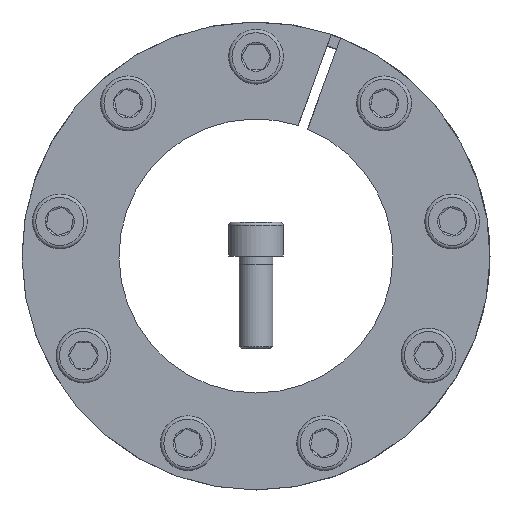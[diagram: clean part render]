
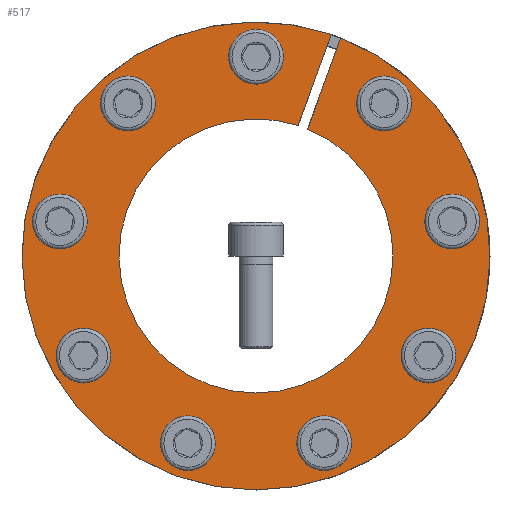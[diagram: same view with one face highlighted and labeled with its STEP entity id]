
A CAD part, front view. The second image highlights one B-rep face of the part: STEP entity #517.
In plain terms, the highlighted planar face has unit normal (0, -1, 0).
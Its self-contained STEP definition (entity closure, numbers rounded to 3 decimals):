
#517 = ADVANCED_FACE( '', ( #944, #945, #946, #947, #948, #949, #950, #951, #952, #953 ), #954, .F. );
#944 = FACE_BOUND( '', #1582, .T. );
#945 = FACE_BOUND( '', #1583, .T. );
#946 = FACE_BOUND( '', #1584, .T. );
#947 = FACE_BOUND( '', #1585, .T. );
#948 = FACE_BOUND( '', #1586, .T. );
#949 = FACE_BOUND( '', #1587, .T. );
#950 = FACE_BOUND( '', #1588, .T. );
#951 = FACE_BOUND( '', #1589, .T. );
#952 = FACE_BOUND( '', #1590, .T. );
#953 = FACE_OUTER_BOUND( '', #1591, .T. );
#954 = PLANE( '', #1592 );
#1582 = EDGE_LOOP( '', ( #2329 ) );
#1583 = EDGE_LOOP( '', ( #2330 ) );
#1584 = EDGE_LOOP( '', ( #2331 ) );
#1585 = EDGE_LOOP( '', ( #2332 ) );
#1586 = EDGE_LOOP( '', ( #2333 ) );
#1587 = EDGE_LOOP( '', ( #2334 ) );
#1588 = EDGE_LOOP( '', ( #2335 ) );
#1589 = EDGE_LOOP( '', ( #2336 ) );
#1590 = EDGE_LOOP( '', ( #2337 ) );
#1591 = EDGE_LOOP( '', ( #2338, #2339, #2340, #2341 ) );
#1592 = AXIS2_PLACEMENT_3D( '', #2342, #2343, #2344 );
#2329 = ORIENTED_EDGE( '', *, *, #3767, .T. );
#2330 = ORIENTED_EDGE( '', *, *, #3768, .T. );
#2331 = ORIENTED_EDGE( '', *, *, #3769, .T. );
#2332 = ORIENTED_EDGE( '', *, *, #3770, .T. );
#2333 = ORIENTED_EDGE( '', *, *, #3771, .T. );
#2334 = ORIENTED_EDGE( '', *, *, #3772, .T. );
#2335 = ORIENTED_EDGE( '', *, *, #3773, .T. );
#2336 = ORIENTED_EDGE( '', *, *, #3774, .T. );
#2337 = ORIENTED_EDGE( '', *, *, #3755, .T. );
#2338 = ORIENTED_EDGE( '', *, *, #3750, .T. );
#2339 = ORIENTED_EDGE( '', *, *, #3756, .T. );
#2340 = ORIENTED_EDGE( '', *, *, #3727, .T. );
#2341 = ORIENTED_EDGE( '', *, *, #3718, .F. );
#2342 = CARTESIAN_POINT( '', ( 0., 0., 55.5 ) );
#2343 = DIRECTION( '', ( 0., 1., 0. ) );
#2344 = DIRECTION( '', ( 0., 0., 1. ) );
#3718 = EDGE_CURVE( '', #4126, #4122, #4128, .T. );
#3727 = EDGE_CURVE( '', #4145, #4122, #4146, .T. );
#3750 = EDGE_CURVE( '', #4126, #4181, #4183, .T. );
#3755 = EDGE_CURVE( '', #4189, #4189, #4190, .T. );
#3756 = EDGE_CURVE( '', #4181, #4145, #4191, .T. );
#3767 = EDGE_CURVE( '', #4211, #4211, #4212, .T. );
#3768 = EDGE_CURVE( '', #4213, #4213, #4214, .T. );
#3769 = EDGE_CURVE( '', #4215, #4215, #4216, .T. );
#3770 = EDGE_CURVE( '', #4217, #4217, #4218, .T. );
#3771 = EDGE_CURVE( '', #4219, #4219, #4220, .T. );
#3772 = EDGE_CURVE( '', #4221, #4221, #4222, .T. );
#3773 = EDGE_CURVE( '', #4223, #4223, #4224, .T. );
#3774 = EDGE_CURVE( '', #4225, #4225, #4226, .T. );
#4122 = VERTEX_POINT( '', #4697 );
#4126 = VERTEX_POINT( '', #4702 );
#4128 = CIRCLE( '', #4705, 32.5 );
#4145 = VERTEX_POINT( '', #4730 );
#4146 = LINE( '', #4731, #4732 );
#4181 = VERTEX_POINT( '', #4796 );
#4183 = LINE( '', #4799, #4800 );
#4189 = VERTEX_POINT( '', #4806 );
#4190 = CIRCLE( '', #4807, 4. );
#4191 = CIRCLE( '', #4808, 55.5 );
#4211 = VERTEX_POINT( '', #4828 );
#4212 = CIRCLE( '', #4829, 4. );
#4213 = VERTEX_POINT( '', #4830 );
#4214 = CIRCLE( '', #4831, 4. );
#4215 = VERTEX_POINT( '', #4832 );
#4216 = CIRCLE( '', #4833, 4. );
#4217 = VERTEX_POINT( '', #4834 );
#4218 = CIRCLE( '', #4835, 4. );
#4219 = VERTEX_POINT( '', #4836 );
#4220 = CIRCLE( '', #4837, 4. );
#4221 = VERTEX_POINT( '', #4838 );
#4222 = CIRCLE( '', #4839, 4. );
#4223 = VERTEX_POINT( '', #4840 );
#4224 = CIRCLE( '', #4841, 4. );
#4225 = VERTEX_POINT( '', #4842 );
#4226 = CIRCLE( '', #4843, 4. );
#4697 = CARTESIAN_POINT( '', ( 12.236, 0., 30.109 ) );
#4702 = CARTESIAN_POINT( '', ( 9.98, 0., 30.93 ) );
#4705 = AXIS2_PLACEMENT_3D( '', #5782, #5783, #5784 );
#4730 = CARTESIAN_POINT( '', ( 20.105, 0., 51.73 ) );
#4731 = CARTESIAN_POINT( '', ( 20.11, 0., 51.743 ) );
#4732 = VECTOR( '', #5799, 1000. );
#4796 = CARTESIAN_POINT( '', ( 17.85, 0., 52.551 ) );
#4799 = CARTESIAN_POINT( '', ( 9.98, 0., 30.93 ) );
#4800 = VECTOR( '', #5824, 1000. );
#4806 = CARTESIAN_POINT( '', ( -27.308, 0., 38.767 ) );
#4807 = AXIS2_PLACEMENT_3D( '', #5837, #5838, #5839 );
#4808 = AXIS2_PLACEMENT_3D( '', #5840, #5841, #5842 );
#4828 = CARTESIAN_POINT( '', ( 4., 0., 47.25 ) );
#4829 = AXIS2_PLACEMENT_3D( '', #5873, #5874, #5875 );
#4830 = CARTESIAN_POINT( '', ( 33.436, 0., 33.624 ) );
#4831 = AXIS2_PLACEMENT_3D( '', #5876, #5877, #5878 );
#4832 = CARTESIAN_POINT( '', ( 47.227, 0., 4.266 ) );
#4833 = AXIS2_PLACEMENT_3D( '', #5879, #5880, #5881 );
#4834 = CARTESIAN_POINT( '', ( 38.92, 0., -27.089 ) );
#4835 = AXIS2_PLACEMENT_3D( '', #5882, #5883, #5884 );
#4836 = CARTESIAN_POINT( '', ( 12.402, 0., -45.769 ) );
#4837 = AXIS2_PLACEMENT_3D( '', #5885, #5886, #5887 );
#4838 = CARTESIAN_POINT( '', ( -19.919, 0., -43.032 ) );
#4839 = AXIS2_PLACEMENT_3D( '', #5888, #5889, #5890 );
#4840 = CARTESIAN_POINT( '', ( -42.92, 0., -20.161 ) );
#4841 = AXIS2_PLACEMENT_3D( '', #5891, #5892, #5893 );
#4842 = CARTESIAN_POINT( '', ( -45.838, 0., 12.144 ) );
#4843 = AXIS2_PLACEMENT_3D( '', #5894, #5895, #5896 );
#5782 = CARTESIAN_POINT( '', ( 0., 0., 0. ) );
#5783 = DIRECTION( '', ( 0., -1., 0. ) );
#5784 = DIRECTION( '', ( 0., 0., -1. ) );
#5799 = DIRECTION( '', ( -0.342, 0., -0.94 ) );
#5824 = DIRECTION( '', ( 0.342, 0., 0.94 ) );
#5837 = CARTESIAN_POINT( '', ( -30.372, 0., 36.196 ) );
#5838 = DIRECTION( '', ( 0., 1., 0. ) );
#5839 = DIRECTION( '', ( 0.766, 0., 0.643 ) );
#5840 = CARTESIAN_POINT( '', ( 0., 0., 0. ) );
#5841 = DIRECTION( '', ( 0., -1., 0. ) );
#5842 = DIRECTION( '', ( 0., 0., -1. ) );
#5873 = CARTESIAN_POINT( '', ( 0., 0., 47.25 ) );
#5874 = DIRECTION( '', ( 0., 1., 0. ) );
#5875 = DIRECTION( '', ( 1., 0., 0. ) );
#5876 = CARTESIAN_POINT( '', ( 30.372, 0., 36.196 ) );
#5877 = DIRECTION( '', ( 0., 1., 0. ) );
#5878 = DIRECTION( '', ( 0.766, 0., -0.643 ) );
#5879 = CARTESIAN_POINT( '', ( 46.532, 0., 8.205 ) );
#5880 = DIRECTION( '', ( 0., 1., 0. ) );
#5881 = DIRECTION( '', ( 0.174, 0., -0.985 ) );
#5882 = CARTESIAN_POINT( '', ( 40.92, 0., -23.625 ) );
#5883 = DIRECTION( '', ( 0., 1., 0. ) );
#5884 = DIRECTION( '', ( -0.5, 0., -0.866 ) );
#5885 = CARTESIAN_POINT( '', ( 16.16, 0., -44.4 ) );
#5886 = DIRECTION( '', ( 0., 1., 0. ) );
#5887 = DIRECTION( '', ( -0.94, 0., -0.342 ) );
#5888 = CARTESIAN_POINT( '', ( -16.16, 0., -44.4 ) );
#5889 = DIRECTION( '', ( 0., 1., 0. ) );
#5890 = DIRECTION( '', ( -0.94, 0., 0.342 ) );
#5891 = CARTESIAN_POINT( '', ( -40.92, 0., -23.625 ) );
#5892 = DIRECTION( '', ( 0., 1., 0. ) );
#5893 = DIRECTION( '', ( -0.5, 0., 0.866 ) );
#5894 = CARTESIAN_POINT( '', ( -46.532, 0., 8.205 ) );
#5895 = DIRECTION( '', ( 0., 1., 0. ) );
#5896 = DIRECTION( '', ( 0.174, 0., 0.985 ) );
